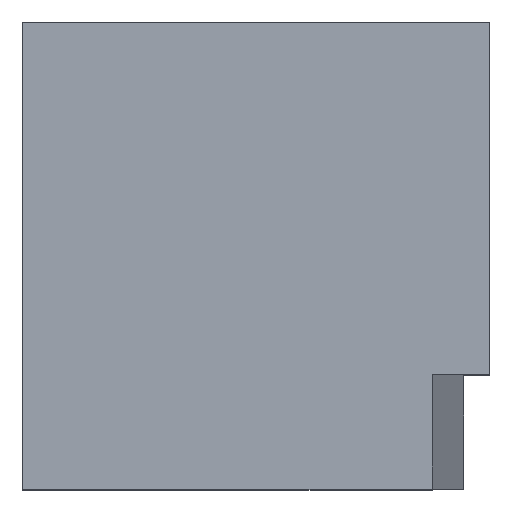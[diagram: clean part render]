
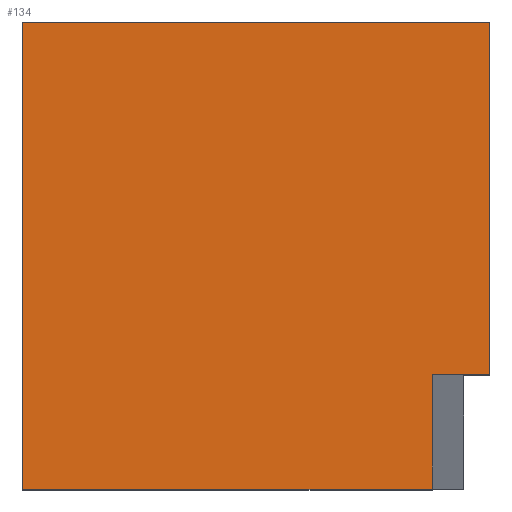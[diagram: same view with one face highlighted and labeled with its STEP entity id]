
A CAD part, top view. The second image highlights one B-rep face of the part: STEP entity #134.
In plain terms, the highlighted planar face has unit normal (0, 0, 1).
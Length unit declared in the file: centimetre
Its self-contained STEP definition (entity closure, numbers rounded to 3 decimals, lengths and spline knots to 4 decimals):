
#4 = AXIS2_PLACEMENT_3D ( 'NONE', #487, #619, #524 ) ;
#7 = VERTEX_POINT ( 'NONE', #45 ) ;
#14 = DIRECTION ( 'NONE',  ( 0., -1., 0. ) ) ;
#41 = CARTESIAN_POINT ( 'NONE',  ( 877.2636, 245.9858, 1000. ) ) ;
#45 = CARTESIAN_POINT ( 'NONE',  ( 1000., 1000., 1000. ) ) ;
#58 = ORIENTED_EDGE ( 'NONE', *, *, #91, .F. ) ;
#65 = ORIENTED_EDGE ( 'NONE', *, *, #103, .F. ) ;
#79 = CARTESIAN_POINT ( 'NONE',  ( 877.2636, 0., 1000. ) ) ;
#82 = VECTOR ( 'NONE', #165, 100. ) ;
#85 = VERTEX_POINT ( 'NONE', #626 ) ;
#89 = DIRECTION ( 'NONE',  ( 0., -1., 0. ) ) ;
#91 = EDGE_CURVE ( 'NONE', #260, #464, #583, .T. ) ;
#103 = EDGE_CURVE ( 'NONE', #458, #260, #294, .T. ) ;
#110 = LINE ( 'NONE', #594, #82 ) ;
#118 = VERTEX_POINT ( 'NONE', #541 ) ;
#134 = ADVANCED_FACE ( 'NONE', ( #537 ), #542, .T. ) ;
#164 = ORIENTED_EDGE ( 'NONE', *, *, #424, .T. ) ;
#165 = DIRECTION ( 'NONE',  ( 1., 0., 0. ) ) ;
#173 = EDGE_LOOP ( 'NONE', ( #58, #65, #164, #517, #275, #492 ) ) ;
#179 = DIRECTION ( 'NONE',  ( 0., 1., 0. ) ) ;
#245 = CARTESIAN_POINT ( 'NONE',  ( 1000., 245.9858, 1000. ) ) ;
#260 = VERTEX_POINT ( 'NONE', #360 ) ;
#274 = VECTOR ( 'NONE', #14, 100. ) ;
#275 = ORIENTED_EDGE ( 'NONE', *, *, #582, .T. ) ;
#287 = LINE ( 'NONE', #378, #605 ) ;
#294 = LINE ( 'NONE', #245, #548 ) ;
#325 = CARTESIAN_POINT ( 'NONE',  ( 1000., 245.9858, 1000. ) ) ;
#355 = VECTOR ( 'NONE', #89, 100. ) ;
#360 = CARTESIAN_POINT ( 'NONE',  ( 877.2636, 245.9858, 1000. ) ) ;
#363 = CARTESIAN_POINT ( 'NONE',  ( 0., 1000., 1000. ) ) ;
#378 = CARTESIAN_POINT ( 'NONE',  ( 1000., 1000., 1000. ) ) ;
#424 = EDGE_CURVE ( 'NONE', #458, #7, #287, .T. ) ;
#425 = DIRECTION ( 'NONE',  ( -1., 0., 0. ) ) ;
#452 = EDGE_CURVE ( 'NONE', #7, #118, #473, .T. ) ;
#458 = VERTEX_POINT ( 'NONE', #325 ) ;
#464 = VERTEX_POINT ( 'NONE', #79 ) ;
#473 = LINE ( 'NONE', #523, #529 ) ;
#487 = CARTESIAN_POINT ( 'NONE',  ( 0., 0., 1000. ) ) ;
#492 = ORIENTED_EDGE ( 'NONE', *, *, #547, .T. ) ;
#517 = ORIENTED_EDGE ( 'NONE', *, *, #452, .T. ) ;
#523 = CARTESIAN_POINT ( 'NONE',  ( 0., 1000., 1000. ) ) ;
#524 = DIRECTION ( 'NONE',  ( 1., 0., 0. ) ) ;
#529 = VECTOR ( 'NONE', #425, 100. ) ;
#537 = FACE_OUTER_BOUND ( 'NONE', #173, .T. ) ;
#541 = CARTESIAN_POINT ( 'NONE',  ( 0., 1000., 1000. ) ) ;
#542 = PLANE ( 'NONE',  #4 ) ;
#547 = EDGE_CURVE ( 'NONE', #85, #464, #110, .T. ) ;
#548 = VECTOR ( 'NONE', #633, 100. ) ;
#582 = EDGE_CURVE ( 'NONE', #118, #85, #599, .T. ) ;
#583 = LINE ( 'NONE', #41, #355 ) ;
#594 = CARTESIAN_POINT ( 'NONE',  ( 0., 0., 1000. ) ) ;
#599 = LINE ( 'NONE', #363, #274 ) ;
#605 = VECTOR ( 'NONE', #179, 100. ) ;
#619 = DIRECTION ( 'NONE',  ( 0., 0., 1. ) ) ;
#626 = CARTESIAN_POINT ( 'NONE',  ( 0., 0., 1000. ) ) ;
#633 = DIRECTION ( 'NONE',  ( -1., 0., 0. ) ) ;
